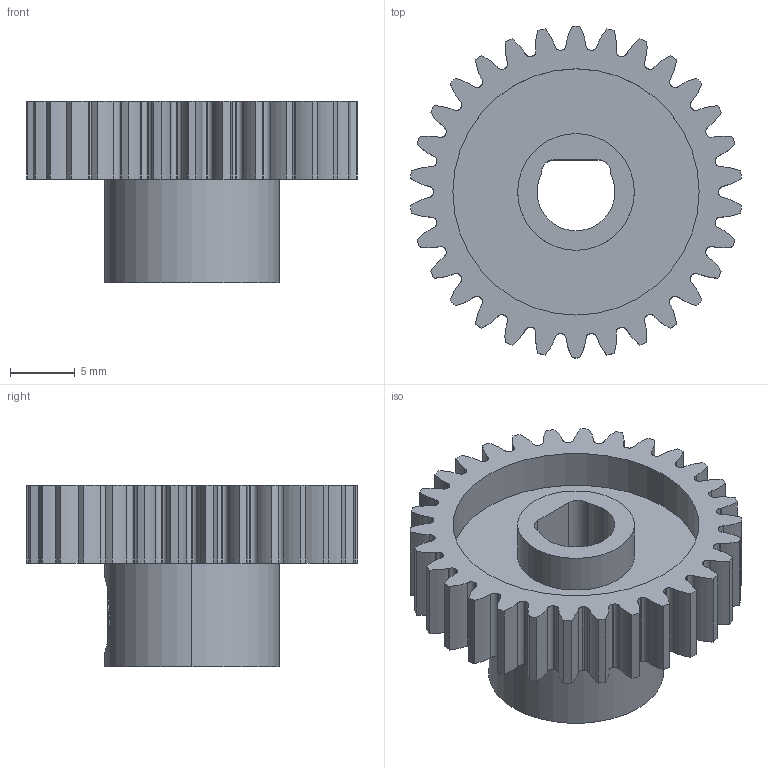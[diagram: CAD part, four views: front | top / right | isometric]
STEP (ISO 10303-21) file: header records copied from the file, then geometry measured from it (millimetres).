
FILE_DESCRIPTION (( 'STEP AP203' ), '1' );
FILE_NAME ('2301-0006-0030 assembly.STEP', '2018-06-28T14:12:20', ( '' ), ( '' ), 'SwSTEP 2.0', 'SolidWorks 2016', '' );
FILE_SCHEMA (( 'CONFIG_CONTROL_DESIGN' ));
Length unit declared in the file: inch
Products named in the file (3): 2806-0005-0004_91390A117; 2301-0006-0030_Gear Blank; 2301-0006-0030 assembly
Assembly tree (2 placements, depth 2):
  2301-0006-0030 assembly
    2301-0006-0030_Gear Blank
    2806-0005-0004_91390A117
Bounding box: 25.51 x 25.6 x 14 mm (x, y, z)
Volume: 2765.3 mm3; surface area: 2767.4 mm2
Topology: 2 solids, 2 shells, 326 faces, 940 edges, 617 vertices
Faces by surface type: bspline 126, cylinder 102, plane 80, cone 18
Entity records: 18658 total; most frequent: CARTESIAN_POINT 10747, ORIENTED_EDGE 1872, DIRECTION 1185, EDGE_CURVE 936, VERTEX_POINT 617, VECTOR 433, LINE 433, AXIS2_PLACEMENT_3D 376
